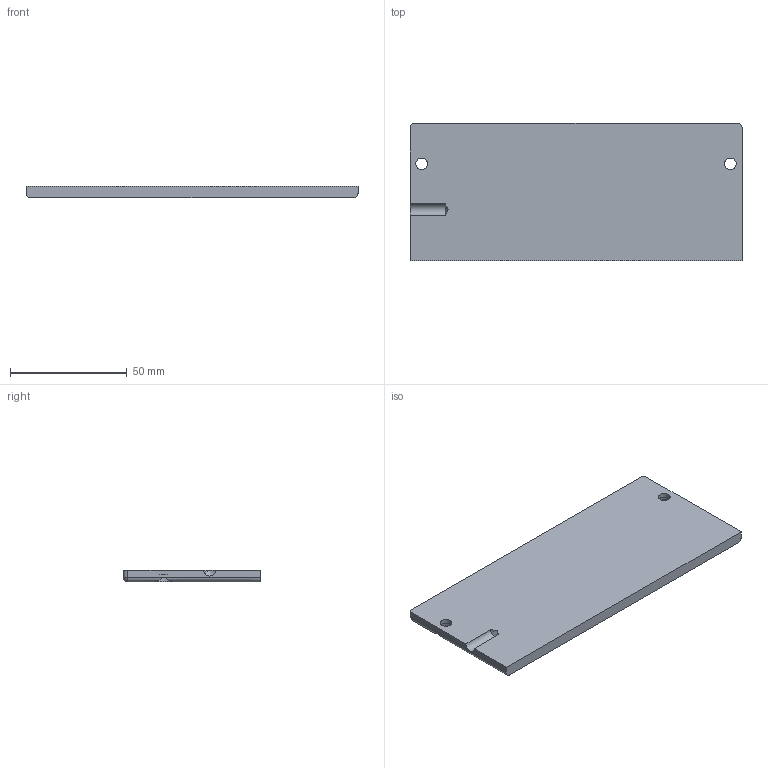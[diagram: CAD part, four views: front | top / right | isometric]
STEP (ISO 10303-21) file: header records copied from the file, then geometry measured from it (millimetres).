
FILE_DESCRIPTION(('FreeCAD Model'),'2;1');
FILE_NAME( '2021-01-24T16:35:32',('Author'),(''), 'Open CASCADE STEP processor 7.3','FreeCAD','Unknown');
FILE_SCHEMA(('AUTOMOTIVE_DESIGN { 1 0 10303 214 1 1 1 1 }'));
Length unit declared in the file: millimetre
Products named in the file (1): cover
Bounding box: 142 x 59 x 5 mm (x, y, z)
Volume: 40965.8 mm3; surface area: 18723.6 mm2
Topology: 1 solids, 1 shells, 21 faces, 55 edges, 33 vertices
Faces by surface type: cylinder 10, plane 8, sphere 2, cone 1
Full cylindrical faces by diameter (mm): 5 x2, 9.99 x2
Entity records: 1765 total; most frequent: CARTESIAN_POINT 698, DIRECTION 197, ORIENTED_EDGE 104, PCURVE 104, DEFINITIONAL_REPRESENTATION 104, LINE 103, VECTOR 103, EDGE_CURVE 52
